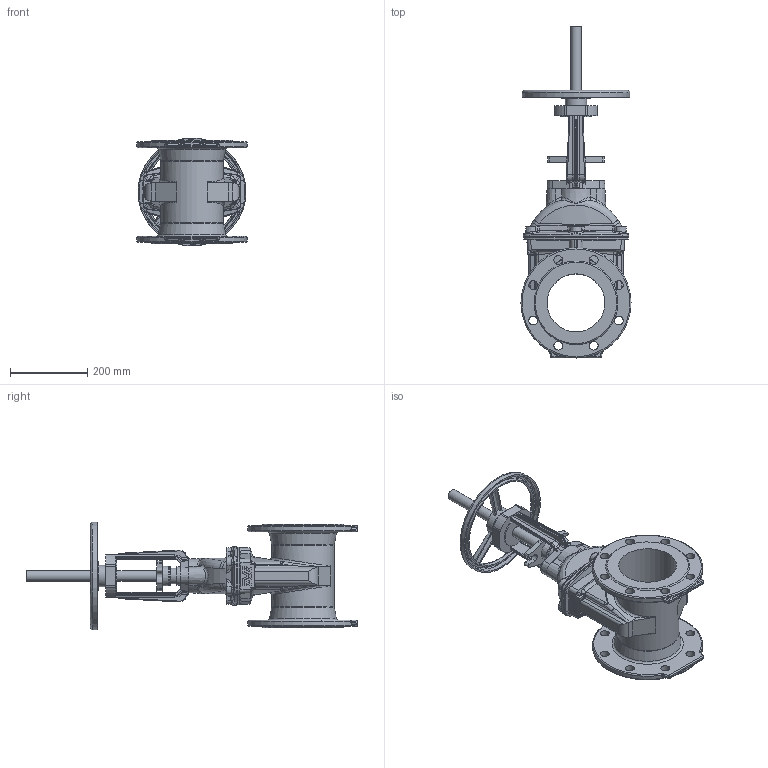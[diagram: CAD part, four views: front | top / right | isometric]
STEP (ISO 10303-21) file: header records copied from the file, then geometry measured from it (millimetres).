
FILE_DESCRIPTION (( 'STEP AP203' ), '1' );
FILE_NAME ('O_21_34_DN150_41XXXXX open_AA0.step', '2020-02-12T09:11:49', ( 'Windows User' ), ( 'AVK' ), 'SwSTEP 2.0', 'SolidWorks 2012', '' );
FILE_SCHEMA (( 'CONFIG_CONTROL_DESIGN' ));
Length unit declared in the file: millimetre
Products named in the file (1): O_21_34_DN150_41XXXXX open_AA0
Bounding box: 285 x 859.87 x 279.74 mm (x, y, z)
Volume: 8627081.8 mm3; surface area: 862841.8 mm2
Topology: 1 solids, 1 shells, 820 faces, 2098 edges, 1255 vertices
Faces by surface type: bspline 246, cylinder 218, plane 211, cone 68, torus 63, sphere 14
Full cylindrical faces by diameter (mm): 23 x16, 28 x2, 39.9 x1, 48 x1, 51 x1, 55 x1, 75 x1, 81 x1, 150 x1, 162 x1, 285 x2
Entity records: 34754 total; most frequent: CARTESIAN_POINT 17436, ORIENTED_EDGE 3980, DIRECTION 3130, EDGE_CURVE 1990, AXIS2_PLACEMENT_3D 1257, VERTEX_POINT 1224, EDGE_LOOP 916, FACE_OUTER_BOUND 858
